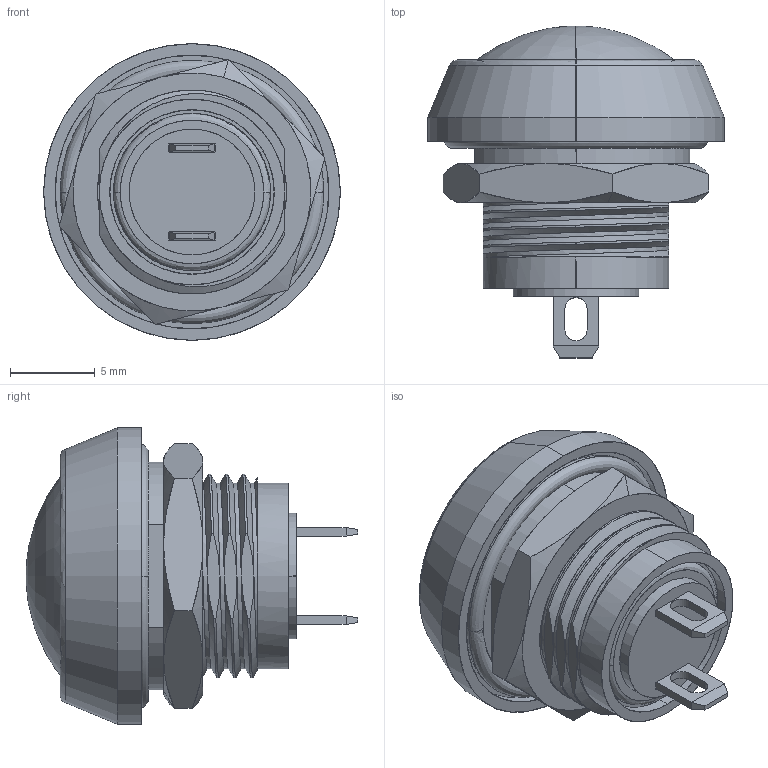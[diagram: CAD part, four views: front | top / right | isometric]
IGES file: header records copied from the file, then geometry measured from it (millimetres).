
Start section: SolidWorks IGES file using analytic representation for surfaces
Global section: file name: C:\Users\Alan_B\Desktop\3D files for IGES and STEP\59-11X.IGS; native system: SolidWorks 2015; preprocessor: SolidWorks 2015; author: Alan_B; date: 150612.114823; units: millimetre
Bounding box: 17.45 x 19.53 x 17.45 mm (x, y, z)
Surface area: 1466.7 mm2 (no closed solid volume)
Topology: 0 solids, 0 shells, 172 faces, 2069 edges, 2068 vertices
Faces by surface type: bspline 118, revolution 54
